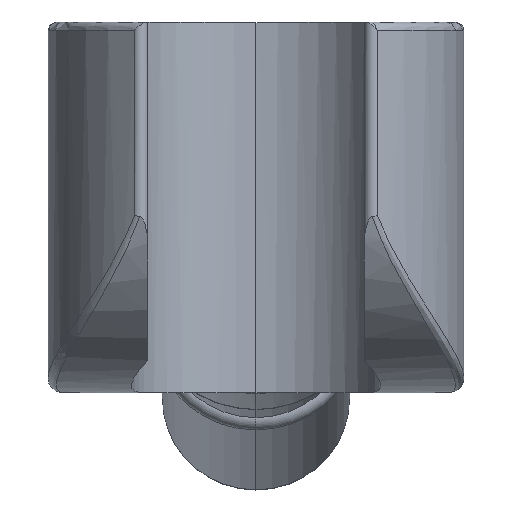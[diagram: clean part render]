
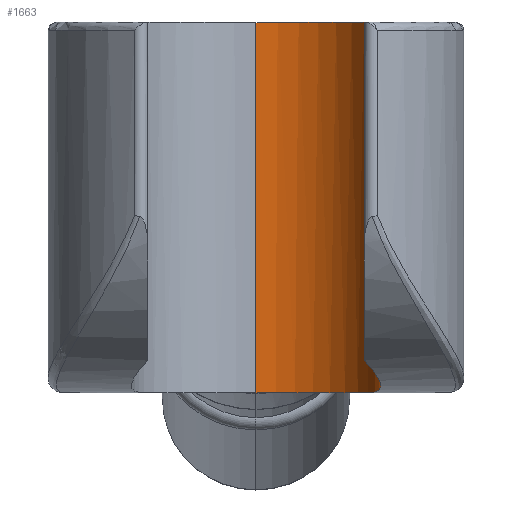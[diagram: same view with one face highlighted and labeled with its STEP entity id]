
A CAD part, top view. The second image highlights one B-rep face of the part: STEP entity #1663.
In plain terms, the highlighted cylindrical face has radius 1.5 mm (diameter 3 mm), a partial arc.
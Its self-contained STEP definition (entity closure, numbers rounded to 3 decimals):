
#81 = CARTESIAN_POINT ( 'NONE',  ( 1.3, 4.45, 0.748 ) ) ;
#98 = ORIENTED_EDGE ( 'NONE', *, *, #412, .F. ) ;
#100 = AXIS2_PLACEMENT_3D ( 'NONE', #331, #1491, #201 ) ;
#152 = CIRCLE ( 'NONE', #1250, 1.5 ) ;
#170 = CARTESIAN_POINT ( 'NONE',  ( 1.357, 0.324, 0.649 ) ) ;
#201 = DIRECTION ( 'NONE',  ( 0., 0., -1. ) ) ;
#222 = VERTEX_POINT ( 'NONE', #1582 ) ;
#227 = CARTESIAN_POINT ( 'NONE',  ( 1.3, 4.45, 0.748 ) ) ;
#259 = EDGE_CURVE ( 'NONE', #405, #455, #407, .T. ) ;
#294 = CARTESIAN_POINT ( 'NONE',  ( 1.471, 0.174, 0.314 ) ) ;
#302 = AXIS2_PLACEMENT_3D ( 'NONE', #711, #1341, #580 ) ;
#331 = CARTESIAN_POINT ( 'NONE',  ( 0., 4.45, 0. ) ) ;
#345 = DIRECTION ( 'NONE',  ( 0., -1., 0. ) ) ;
#364 = DIRECTION ( 'NONE',  ( 0., 0., 1. ) ) ;
#405 = VERTEX_POINT ( 'NONE', #1126 ) ;
#407 = LINE ( 'NONE', #705, #822 ) ;
#412 = EDGE_CURVE ( 'NONE', #460, #1440, #576, .T. ) ;
#455 = VERTEX_POINT ( 'NONE', #1639 ) ;
#460 = VERTEX_POINT ( 'NONE', #81 ) ;
#496 = B_SPLINE_CURVE_WITH_KNOTS ( 'NONE', 3,
 ( #805, #826, #1065, #543, #940, #538, #294, #560, #170, #1460 ),
 .UNSPECIFIED., .F., .F.,
 ( 4, 2, 2, 2, 4 ),
 ( 0., 0., 0.001, 0.001, 0.002 ),
 .UNSPECIFIED. ) ;
#504 = CYLINDRICAL_SURFACE ( 'NONE', #100, 1.5 ) ;
#538 = CARTESIAN_POINT ( 'NONE',  ( 1.493, 0.132, 0.193 ) ) ;
#543 = CARTESIAN_POINT ( 'NONE',  ( 1.495, 0.039, -0.18 ) ) ;
#550 = EDGE_LOOP ( 'NONE', ( #804, #1011, #775, #1309, #98 ) ) ;
#560 = CARTESIAN_POINT ( 'NONE',  ( 1.404, 0.27, 0.541 ) ) ;
#576 = LINE ( 'NONE', #227, #1204 ) ;
#580 = DIRECTION ( 'NONE',  ( 0., 0., 1. ) ) ;
#703 = EDGE_CURVE ( 'NONE', #405, #460, #1317, .T. ) ;
#705 = CARTESIAN_POINT ( 'NONE',  ( 0., 4.45, -1.5 ) ) ;
#711 = CARTESIAN_POINT ( 'NONE',  ( 0., 4.45, 0. ) ) ;
#775 = ORIENTED_EDGE ( 'NONE', *, *, #792, .T. ) ;
#792 = EDGE_CURVE ( 'NONE', #455, #222, #152, .T. ) ;
#804 = ORIENTED_EDGE ( 'NONE', *, *, #703, .F. ) ;
#805 = CARTESIAN_POINT ( 'NONE',  ( 1.345, 0., -0.665 ) ) ;
#822 = VECTOR ( 'NONE', #839, 1000. ) ;
#826 = CARTESIAN_POINT ( 'NONE',  ( 1.402, 0., -0.549 ) ) ;
#837 = FACE_OUTER_BOUND ( 'NONE', #550, .T. ) ;
#839 = DIRECTION ( 'NONE',  ( 0., -1., 0. ) ) ;
#940 = CARTESIAN_POINT ( 'NONE',  ( 1.504, 0.065, -0.053 ) ) ;
#1011 = ORIENTED_EDGE ( 'NONE', *, *, #259, .T. ) ;
#1065 = CARTESIAN_POINT ( 'NONE',  ( 1.443, 0.007, -0.429 ) ) ;
#1123 = DIRECTION ( 'NONE',  ( 0., -1., 0. ) ) ;
#1126 = CARTESIAN_POINT ( 'NONE',  ( 0., 4.45, -1.5 ) ) ;
#1204 = VECTOR ( 'NONE', #345, 1000. ) ;
#1250 = AXIS2_PLACEMENT_3D ( 'NONE', #1648, #1123, #364 ) ;
#1285 = EDGE_CURVE ( 'NONE', #222, #1440, #496, .T. ) ;
#1309 = ORIENTED_EDGE ( 'NONE', *, *, #1285, .T. ) ;
#1317 = CIRCLE ( 'NONE', #302, 1.5 ) ;
#1341 = DIRECTION ( 'NONE',  ( 0., -1., 0. ) ) ;
#1440 = VERTEX_POINT ( 'NONE', #1539 ) ;
#1460 = CARTESIAN_POINT ( 'NONE',  ( 1.3, 0.383, 0.748 ) ) ;
#1491 = DIRECTION ( 'NONE',  ( 0., -1., 0. ) ) ;
#1539 = CARTESIAN_POINT ( 'NONE',  ( 1.3, 0.383, 0.748 ) ) ;
#1582 = CARTESIAN_POINT ( 'NONE',  ( 1.345, 0., -0.665 ) ) ;
#1639 = CARTESIAN_POINT ( 'NONE',  ( 0., 0., -1.5 ) ) ;
#1648 = CARTESIAN_POINT ( 'NONE',  ( 0., 0., 0. ) ) ;
#1663 = ADVANCED_FACE ( 'NONE', ( #837 ), #504, .F. ) ;
